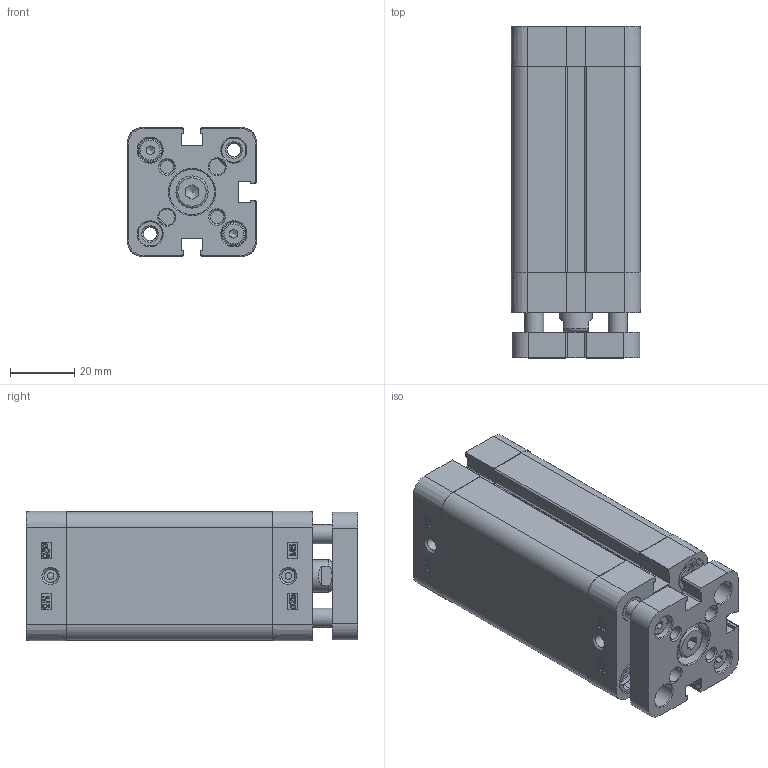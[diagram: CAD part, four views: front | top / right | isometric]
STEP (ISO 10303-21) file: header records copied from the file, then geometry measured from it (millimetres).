
FILE_DESCRIPTION((''),'2;1');
FILE_NAME('T:\Archivio Inventor\- CATALOGHI 2012\SERIE P - NUOVA\PDMA\PDMA025\PDMA025.---.GS.F\PDMA025.050.GS.F.stp','2013-05-14T08:08:15',('Administrator'),(''),'Autodesk Inventor 2012','Autodesk Inventor 2012','');
FILE_SCHEMA(('CONFIG_CONTROL_DESIGN'));
Length unit declared in the file: millimetre
Products named in the file (1): PDMA025.050.GS.F
Bounding box: 40.3 x 103 x 40.3 mm (x, y, z)
Volume: 91497.2 mm3; surface area: 47696.8 mm2
Topology: 1 solids, 10 shells, 740 faces, 1914 edges, 1251 vertices
Faces by surface type: plane 375, cylinder 181, bspline 92, cone 76, torus 16
Full cylindrical faces by diameter (mm): 2 x2, 4 x2, 4.134 x10, 4.3 x2, 4.917 x1, 5 x2, 6 x7, 7 x2, 7.5 x6, 7.55 x2, 7.6 x1, 8 x12, 9 x1, 10 x2, 10.5 x1, 10.9 x4, 11.1 x4, 14 x1, 25 x1, 27.3 x1, 27.5 x1
Entity records: 22874 total; most frequent: CARTESIAN_POINT 4999, ORIENTED_EDGE 3476, DIRECTION 3298, EDGE_CURVE 1738, VERTEX_POINT 1221, AXIS2_PLACEMENT_3D 1126, VECTOR 1046, LINE 1046
